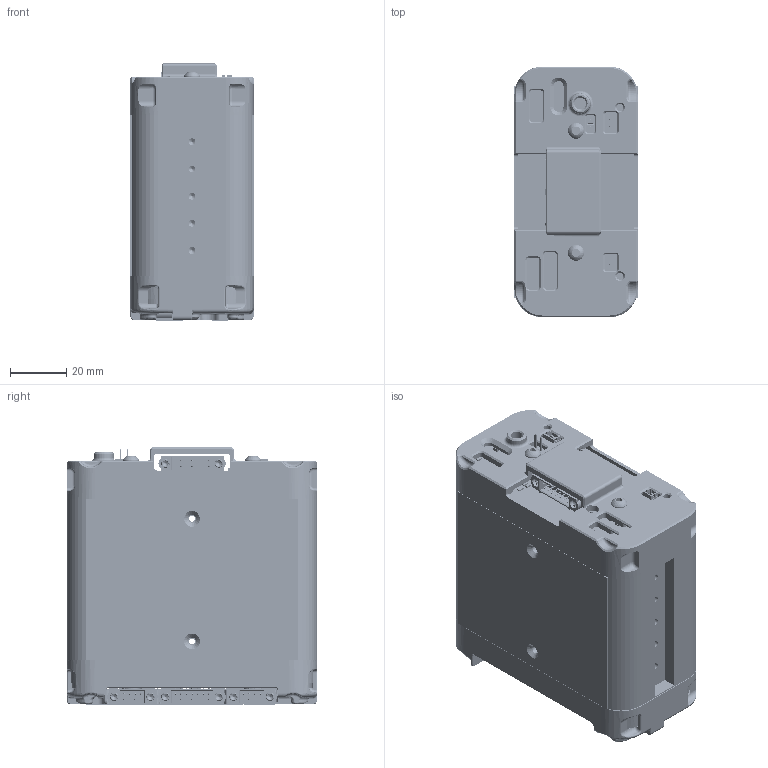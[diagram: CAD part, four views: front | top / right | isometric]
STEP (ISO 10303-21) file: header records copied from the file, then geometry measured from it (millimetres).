
FILE_DESCRIPTION (( 'STEP AP214' ), '1' );
FILE_NAME ('710-01552-F Battery Module 2 - No Brackets - BSM Rev A.STEP', '2019-01-23T19:45:02', ( '' ), ( '' ), 'SwSTEP 2.0', 'SolidWorks 2014', '' );
FILE_SCHEMA (( 'AUTOMOTIVE_DESIGN' ));
Length unit declared in the file: inch
Products named in the file (2): 710-01552-F Battery Module 2 - No Brackets - BSM Rev A
Bounding box: 44.12 x 89.3 x 91.73 mm (x, y, z)
Volume: 304624.2 mm3; surface area: 56800.8 mm2
Topology: 1 solids, 5 shells, 9301 faces, 26830 edges, 17370 vertices
Faces by surface type: plane 4023, cylinder 2455, torus 1073, cone 962, bspline 779, sphere 9
Entity records: 433864 total; most frequent: CARTESIAN_POINT 182381, ORIENTED_EDGE 53550, DIRECTION 46755, EDGE_CURVE 26775, VERTEX_POINT 17370, AXIS2_PLACEMENT_3D 16859, VECTOR 13037, LINE 13037
